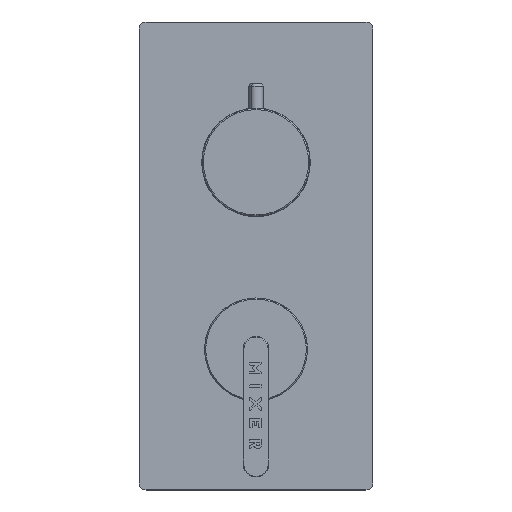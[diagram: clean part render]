
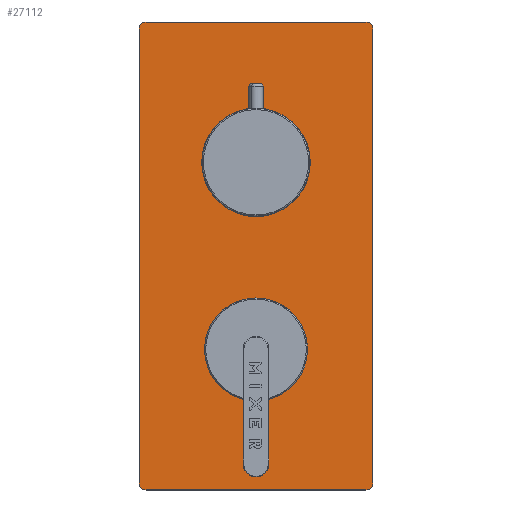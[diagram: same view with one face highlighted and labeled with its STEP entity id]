
A CAD part, top view. The second image highlights one B-rep face of the part: STEP entity #27112.
In plain terms, the highlighted planar face has unit normal (0, 0, 1) as drawn and (0, 0, -1) by its records, which use the part's own axes.
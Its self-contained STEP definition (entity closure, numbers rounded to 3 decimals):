
#327 = CARTESIAN_POINT ( 'NONE',  ( -97., 50., 0. ) ) ;
#1466 = EDGE_CURVE ( 'NONE', #38010, #27567, #39290, .T. ) ;
#1802 = ORIENTED_EDGE ( 'NONE', *, *, #30365, .F. ) ;
#2115 = CARTESIAN_POINT ( 'NONE',  ( 100., -50., 0. ) ) ;
#2139 = EDGE_CURVE ( 'NONE', #3278, #10505, #32817, .T. ) ;
#3278 = VERTEX_POINT ( 'NONE', #17806 ) ;
#3732 = DIRECTION ( 'NONE',  ( 0., 0., 1. ) ) ;
#4107 = AXIS2_PLACEMENT_3D ( 'NONE', #40237, #37180, #10002 ) ;
#4327 = CARTESIAN_POINT ( 'NONE',  ( -19.3, 0., 0. ) ) ;
#4561 = VECTOR ( 'NONE', #29463, 1000. ) ;
#4791 = CARTESIAN_POINT ( 'NONE',  ( -97., -47., 0. ) ) ;
#5033 = LINE ( 'NONE', #39138, #23793 ) ;
#5793 = DIRECTION ( 'NONE',  ( 1., 0., 0. ) ) ;
#5935 = CIRCLE ( 'NONE', #8562, 3. ) ;
#5972 = DIRECTION ( 'NONE',  ( 0., 0., 1. ) ) ;
#6647 = VERTEX_POINT ( 'NONE', #10590 ) ;
#8562 = AXIS2_PLACEMENT_3D ( 'NONE', #4791, #23201, #35645 ) ;
#8842 = DIRECTION ( 'NONE',  ( 0., 0., 1. ) ) ;
#9520 = DIRECTION ( 'NONE',  ( 0., 0., 1. ) ) ;
#9545 = EDGE_LOOP ( 'NONE', ( #1802, #33039, #13847, #27365, #19398, #12995, #16695, #35737 ) ) ;
#9650 = FACE_OUTER_BOUND ( 'NONE', #9545, .T. ) ;
#10002 = DIRECTION ( 'NONE',  ( 1., 0., 0. ) ) ;
#10505 = VERTEX_POINT ( 'NONE', #10762 ) ;
#10541 = AXIS2_PLACEMENT_3D ( 'NONE', #39417, #24516, #14719 ) ;
#10590 = CARTESIAN_POINT ( 'NONE',  ( -60.7, 0., 0. ) ) ;
#10762 = CARTESIAN_POINT ( 'NONE',  ( 16.8, 0., 0. ) ) ;
#11148 = EDGE_CURVE ( 'NONE', #13849, #32216, #35630, .T. ) ;
#11338 = ORIENTED_EDGE ( 'NONE', *, *, #24122, .T. ) ;
#11520 = CARTESIAN_POINT ( 'NONE',  ( 100., -50., 0. ) ) ;
#12294 = CARTESIAN_POINT ( 'NONE',  ( -40., 0., 0. ) ) ;
#12473 = VECTOR ( 'NONE', #17046, 1000. ) ;
#12751 = CARTESIAN_POINT ( 'NONE',  ( 97., -50., 0. ) ) ;
#12801 = DIRECTION ( 'NONE',  ( 1., 0., 0. ) ) ;
#12854 = VERTEX_POINT ( 'NONE', #23593 ) ;
#12939 = DIRECTION ( 'NONE',  ( 1., 0., 0. ) ) ;
#12995 = ORIENTED_EDGE ( 'NONE', *, *, #28693, .T. ) ;
#13811 = DIRECTION ( 'NONE',  ( 0., 0., -1. ) ) ;
#13826 = CARTESIAN_POINT ( 'NONE',  ( 97., 50., 0. ) ) ;
#13847 = ORIENTED_EDGE ( 'NONE', *, *, #37429, .F. ) ;
#13849 = VERTEX_POINT ( 'NONE', #34643 ) ;
#14091 = EDGE_CURVE ( 'NONE', #13849, #12854, #5935, .T. ) ;
#14240 = CIRCLE ( 'NONE', #18139, 3. ) ;
#14246 = EDGE_LOOP ( 'NONE', ( #25059, #11338 ) ) ;
#14300 = AXIS2_PLACEMENT_3D ( 'NONE', #12294, #5972, #30695 ) ;
#14719 = DIRECTION ( 'NONE',  ( 1., 0., 0. ) ) ;
#15045 = EDGE_LOOP ( 'NONE', ( #34440, #23643 ) ) ;
#15591 = PLANE ( 'NONE',  #38347 ) ;
#16251 = CIRCLE ( 'NONE', #14300, 20.7 ) ;
#16639 = AXIS2_PLACEMENT_3D ( 'NONE', #23983, #8842, #5793 ) ;
#16695 = ORIENTED_EDGE ( 'NONE', *, *, #11148, .F. ) ;
#17046 = DIRECTION ( 'NONE',  ( 0., 1., 0. ) ) ;
#17806 = CARTESIAN_POINT ( 'NONE',  ( 63.2, 0., 0. ) ) ;
#18139 = AXIS2_PLACEMENT_3D ( 'NONE', #35670, #13811, #29343 ) ;
#18578 = CIRCLE ( 'NONE', #16639, 23.2 ) ;
#19221 = AXIS2_PLACEMENT_3D ( 'NONE', #33860, #9520, #12801 ) ;
#19271 = EDGE_CURVE ( 'NONE', #21999, #19891, #28829, .T. ) ;
#19398 = ORIENTED_EDGE ( 'NONE', *, *, #1466, .F. ) ;
#19891 = VERTEX_POINT ( 'NONE', #327 ) ;
#20869 = CIRCLE ( 'NONE', #38460, 3. ) ;
#20871 = DIRECTION ( 'NONE',  ( 0., 0., -1. ) ) ;
#21727 = FACE_BOUND ( 'NONE', #15045, .T. ) ;
#21999 = VERTEX_POINT ( 'NONE', #30872 ) ;
#23201 = DIRECTION ( 'NONE',  ( 0., 0., -1. ) ) ;
#23593 = CARTESIAN_POINT ( 'NONE',  ( -100., -47., 0. ) ) ;
#23643 = ORIENTED_EDGE ( 'NONE', *, *, #2139, .T. ) ;
#23793 = VECTOR ( 'NONE', #24039, 1000. ) ;
#23943 = CARTESIAN_POINT ( 'NONE',  ( 97., 47., 0. ) ) ;
#23983 = CARTESIAN_POINT ( 'NONE',  ( 40., 0., 0. ) ) ;
#24039 = DIRECTION ( 'NONE',  ( 0., -1., 0. ) ) ;
#24122 = EDGE_CURVE ( 'NONE', #35591, #6647, #35522, .T. ) ;
#24516 = DIRECTION ( 'NONE',  ( 0., 0., -1. ) ) ;
#25059 = ORIENTED_EDGE ( 'NONE', *, *, #28236, .T. ) ;
#25107 = VERTEX_POINT ( 'NONE', #13826 ) ;
#25313 = VECTOR ( 'NONE', #39091, 1000. ) ;
#27112 = ADVANCED_FACE ( 'NONE', ( #9650, #37437, #21727 ), #15591, .F. ) ;
#27365 = ORIENTED_EDGE ( 'NONE', *, *, #35743, .T. ) ;
#27567 = VERTEX_POINT ( 'NONE', #29372 ) ;
#28236 = EDGE_CURVE ( 'NONE', #6647, #35591, #16251, .T. ) ;
#28693 = EDGE_CURVE ( 'NONE', #38010, #32216, #14240, .T. ) ;
#28829 = CIRCLE ( 'NONE', #10541, 3. ) ;
#29343 = DIRECTION ( 'NONE',  ( 1., 0., 0. ) ) ;
#29366 = EDGE_CURVE ( 'NONE', #10505, #3278, #18578, .T. ) ;
#29372 = CARTESIAN_POINT ( 'NONE',  ( 100., 47., 0. ) ) ;
#29463 = DIRECTION ( 'NONE',  ( -1., 0., 0. ) ) ;
#30261 = CARTESIAN_POINT ( 'NONE',  ( 100., 50., 0. ) ) ;
#30365 = EDGE_CURVE ( 'NONE', #21999, #12854, #5033, .T. ) ;
#30695 = DIRECTION ( 'NONE',  ( 1., 0., 0. ) ) ;
#30872 = CARTESIAN_POINT ( 'NONE',  ( -100., 47., 0. ) ) ;
#32216 = VERTEX_POINT ( 'NONE', #12751 ) ;
#32817 = CIRCLE ( 'NONE', #4107, 23.2 ) ;
#33039 = ORIENTED_EDGE ( 'NONE', *, *, #19271, .T. ) ;
#33860 = CARTESIAN_POINT ( 'NONE',  ( -40., 0., 0. ) ) ;
#34440 = ORIENTED_EDGE ( 'NONE', *, *, #29366, .T. ) ;
#34643 = CARTESIAN_POINT ( 'NONE',  ( -97., -50., 0. ) ) ;
#34687 = CARTESIAN_POINT ( 'NONE',  ( 100., -47., 0. ) ) ;
#34788 = CARTESIAN_POINT ( 'NONE',  ( 0., 0., 0. ) ) ;
#35522 = CIRCLE ( 'NONE', #19221, 20.7 ) ;
#35591 = VERTEX_POINT ( 'NONE', #4327 ) ;
#35630 = LINE ( 'NONE', #11520, #25313 ) ;
#35645 = DIRECTION ( 'NONE',  ( 1., 0., 0. ) ) ;
#35670 = CARTESIAN_POINT ( 'NONE',  ( 97., -47., 0. ) ) ;
#35737 = ORIENTED_EDGE ( 'NONE', *, *, #14091, .T. ) ;
#35743 = EDGE_CURVE ( 'NONE', #25107, #27567, #20869, .T. ) ;
#37180 = DIRECTION ( 'NONE',  ( 0., 0., 1. ) ) ;
#37429 = EDGE_CURVE ( 'NONE', #25107, #19891, #39437, .T. ) ;
#37437 = FACE_BOUND ( 'NONE', #14246, .T. ) ;
#38010 = VERTEX_POINT ( 'NONE', #34687 ) ;
#38347 = AXIS2_PLACEMENT_3D ( 'NONE', #34788, #3732, #12939 ) ;
#38460 = AXIS2_PLACEMENT_3D ( 'NONE', #23943, #20871, #39643 ) ;
#39091 = DIRECTION ( 'NONE',  ( 1., 0., 0. ) ) ;
#39138 = CARTESIAN_POINT ( 'NONE',  ( -100., -50., 0. ) ) ;
#39290 = LINE ( 'NONE', #2115, #12473 ) ;
#39417 = CARTESIAN_POINT ( 'NONE',  ( -97., 47., 0. ) ) ;
#39437 = LINE ( 'NONE', #30261, #4561 ) ;
#39643 = DIRECTION ( 'NONE',  ( 1., 0., 0. ) ) ;
#40237 = CARTESIAN_POINT ( 'NONE',  ( 40., 0., 0. ) ) ;
